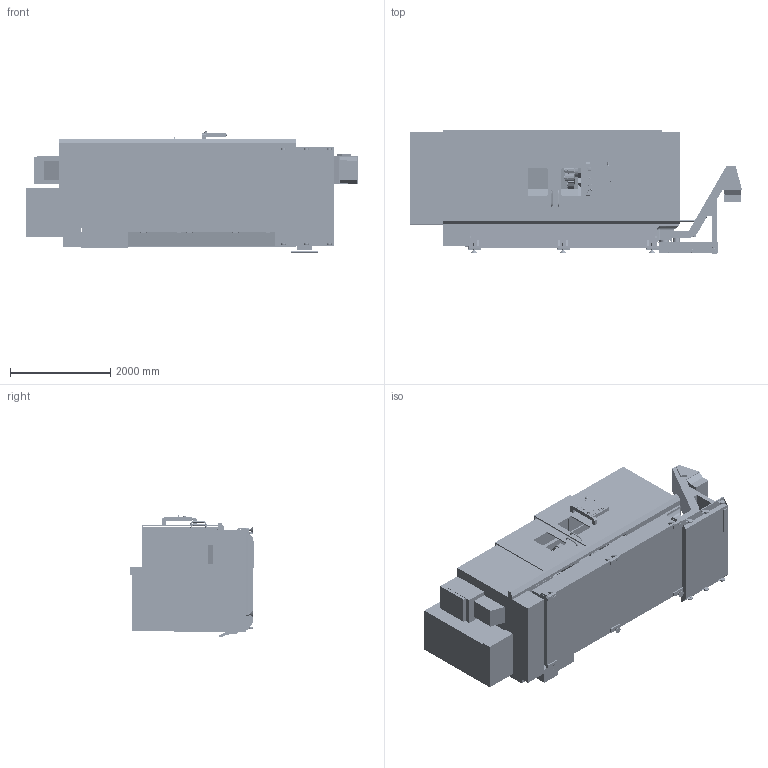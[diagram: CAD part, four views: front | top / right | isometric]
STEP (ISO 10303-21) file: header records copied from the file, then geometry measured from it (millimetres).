
FILE_DESCRIPTION (( 'STEP AP203' ), '1' );
FILE_NAME ('ST-45L_8_2024.STEP', '2024-07-29T16:05:58', ( '' ), ( '' ), 'SwSTEP 2.0', 'SolidWorks 2022', '' );
FILE_SCHEMA (( 'CONFIG_CONTROL_DESIGN' ));
Length unit declared in the file: inch
Products named in the file (17): ST40L NON WEDGE; bmt 75 Metric; ST-45L_8_2024; ST40L leveling pads; bmt75 turret; coolant tank; BOT INch; control pendant; ST40L base; BOT metric; Live center; 18 inch chuck; ST40L enclosure; steady rest; Tailstock; st40l conveyor; bmt 75 inch
Assembly tree (16 placements, depth 2):
  ST-45L_8_2024
    ST40L base
    ST40L NON WEDGE
    coolant tank
    st40l conveyor
    Tailstock
    steady rest
    Live center
    18 inch chuck
    ST40L enclosure
    control pendant
    bmt75 turret
    bmt 75 Metric
    bmt 75 inch
    BOT INch
    BOT metric
    ST40L leveling pads
Bounding box: 6636.9 x 2483.51 x 2458.08 mm (x, y, z)
Volume: 10889771276.8 mm3; surface area: 161230885.4 mm2
Topology: 86 solids, 106 shells, 15777 faces, 39787 edges, 25039 vertices
Faces by surface type: plane 7860, cylinder 4060, cone 1722, bspline 1414, torus 383, sphere 338
Entity records: 553475 total; most frequent: CARTESIAN_POINT 184037, ORIENTED_EDGE 79034, DIRECTION 72242, EDGE_CURVE 39517, VERTEX_POINT 25035, AXIS2_PLACEMENT_3D 24553, VECTOR 23136, LINE 23136
